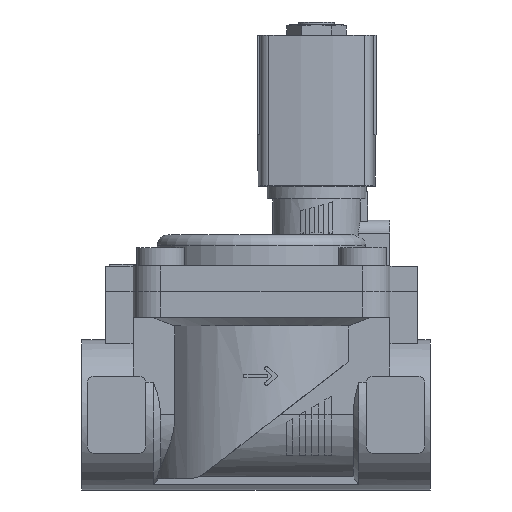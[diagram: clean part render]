
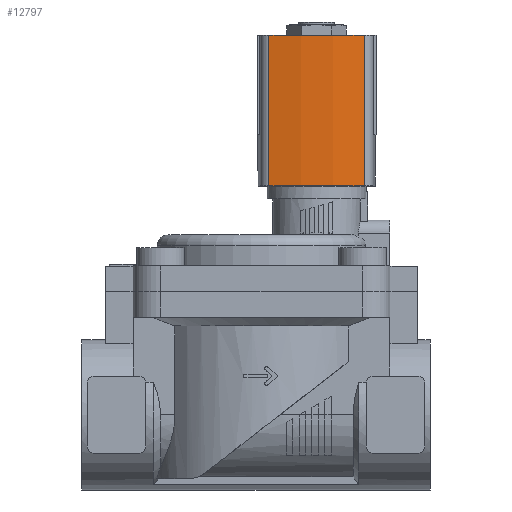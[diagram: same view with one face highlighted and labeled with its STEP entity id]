
A CAD part, top view. The second image highlights one B-rep face of the part: STEP entity #12797.
In plain terms, the highlighted cylindrical face has radius 60 mm (diameter 120 mm), a partial arc.
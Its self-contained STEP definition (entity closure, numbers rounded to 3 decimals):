
#229=CYLINDRICAL_SURFACE('',#13649,60.);
#1258=LINE('',#19586,#2372);
#1259=LINE('',#19590,#2373);
#2372=VECTOR('',#16200,1000.);
#2373=VECTOR('',#16205,1000.);
#4785=ORIENTED_EDGE('',*,*,#6826,.T.);
#4786=ORIENTED_EDGE('',*,*,#6827,.F.);
#4787=ORIENTED_EDGE('',*,*,#6112,.F.);
#4788=ORIENTED_EDGE('',*,*,#6825,.T.);
#6112=EDGE_CURVE('',#7390,#7391,#8117,.T.);
#6825=EDGE_CURVE('',#7390,#7896,#1258,.T.);
#6826=EDGE_CURVE('',#7896,#7897,#8211,.T.);
#6827=EDGE_CURVE('',#7391,#7897,#1259,.T.);
#7390=VERTEX_POINT('',#18240);
#7391=VERTEX_POINT('',#18242);
#7896=VERTEX_POINT('',#19585);
#7897=VERTEX_POINT('',#19589);
#8117=CIRCLE('',#13429,60.);
#8211=CIRCLE('',#13650,60.);
#8636=EDGE_LOOP('',(#4785,#4786,#4787,#4788));
#9216=FACE_BOUND('',#8636,.T.);
#12797=ADVANCED_FACE('',(#9216),#229,.T.);
#13429=AXIS2_PLACEMENT_3D('',#18241,#15141,#15142);
#13649=AXIS2_PLACEMENT_3D('',#19587,#16201,#16202);
#13650=AXIS2_PLACEMENT_3D('',#19588,#16203,#16204);
#15141=DIRECTION('',(0.,1.,0.));
#15142=DIRECTION('',(1.,0.,0.));
#16200=DIRECTION('',(0.,-1.,0.));
#16201=DIRECTION('',(0.,-1.,0.));
#16202=DIRECTION('',(0.,0.,-1.));
#16203=DIRECTION('',(0.,1.,0.));
#16204=DIRECTION('',(1.,0.,0.));
#16205=DIRECTION('',(0.,-1.,0.));
#18240=CARTESIAN_POINT('',(19.078,15.,12.986));
#18241=CARTESIAN_POINT('',(-39.5,15.,0.));
#18242=CARTESIAN_POINT('',(19.078,15.,-12.986));
#19585=CARTESIAN_POINT('',(19.078,-26.,12.986));
#19586=CARTESIAN_POINT('',(19.078,15.,12.986));
#19587=CARTESIAN_POINT('',(-39.5,15.,0.));
#19588=CARTESIAN_POINT('',(-39.5,-26.,0.));
#19589=CARTESIAN_POINT('',(19.078,-26.,-12.986));
#19590=CARTESIAN_POINT('',(19.078,15.,-12.986));
